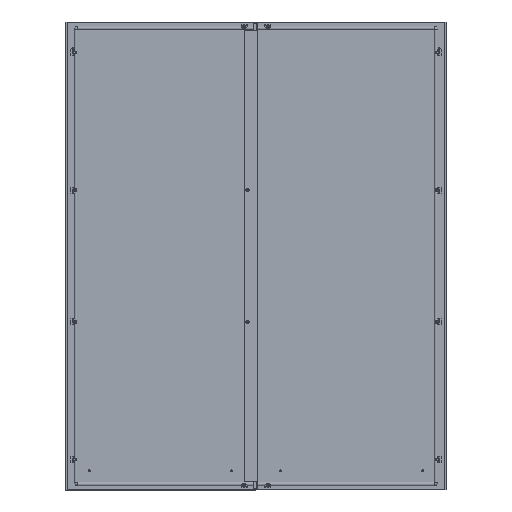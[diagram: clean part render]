
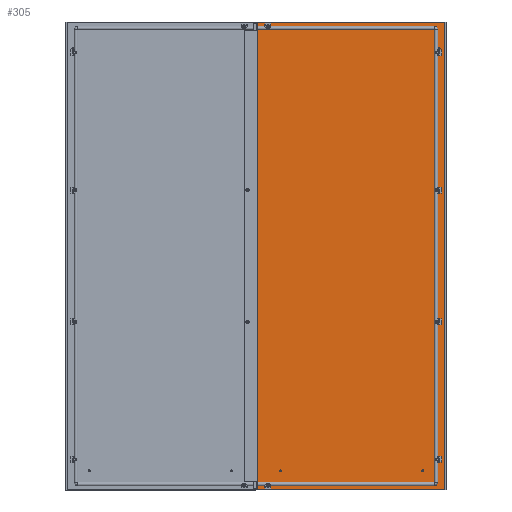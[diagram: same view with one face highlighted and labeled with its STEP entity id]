
A CAD part, top view. The second image highlights one B-rep face of the part: STEP entity #305.
In plain terms, the highlighted planar face has unit normal (0, 0, 1) as drawn and (0, 0, -1) by its records, which use the part's own axes.
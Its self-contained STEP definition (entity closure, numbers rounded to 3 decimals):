
#305 = ADVANCED_FACE('',(#306,#317,#328,#339,#350,#361,#372),#470,.T.);
#306 = FACE_BOUND('',#307,.T.);
#307 = EDGE_LOOP('',(#308));
#308 = ORIENTED_EDGE('',*,*,#309,.T.);
#309 = EDGE_CURVE('',#310,#310,#312,.T.);
#310 = VERTEX_POINT('',#311);
#311 = CARTESIAN_POINT('',(369.25,-850.,-1.5));
#312 = CIRCLE('',#313,4.75);
#313 = AXIS2_PLACEMENT_3D('',#314,#315,#316);
#314 = CARTESIAN_POINT('',(364.5,-850.,-1.5));
#315 = DIRECTION('',(0.,0.,1.));
#316 = DIRECTION('',(1.,0.,-0.));
#317 = FACE_BOUND('',#318,.T.);
#318 = EDGE_LOOP('',(#319));
#319 = ORIENTED_EDGE('',*,*,#320,.T.);
#320 = EDGE_CURVE('',#321,#321,#323,.T.);
#321 = VERTEX_POINT('',#322);
#322 = CARTESIAN_POINT('',(369.25,-275.,-1.5));
#323 = CIRCLE('',#324,4.75);
#324 = AXIS2_PLACEMENT_3D('',#325,#326,#327);
#325 = CARTESIAN_POINT('',(364.5,-275.,-1.5));
#326 = DIRECTION('',(0.,0.,1.));
#327 = DIRECTION('',(1.,0.,-0.));
#328 = FACE_BOUND('',#329,.T.);
#329 = EDGE_LOOP('',(#330));
#330 = ORIENTED_EDGE('',*,*,#331,.F.);
#331 = EDGE_CURVE('',#332,#332,#334,.T.);
#332 = VERTEX_POINT('',#333);
#333 = CARTESIAN_POINT('',(369.25,850.,-1.5));
#334 = CIRCLE('',#335,4.75);
#335 = AXIS2_PLACEMENT_3D('',#336,#337,#338);
#336 = CARTESIAN_POINT('',(364.5,850.,-1.5));
#337 = DIRECTION('',(0.,0.,-1.));
#338 = DIRECTION('',(1.,0.,0.));
#339 = FACE_BOUND('',#340,.T.);
#340 = EDGE_LOOP('',(#341));
#341 = ORIENTED_EDGE('',*,*,#342,.F.);
#342 = EDGE_CURVE('',#343,#343,#345,.T.);
#343 = VERTEX_POINT('',#344);
#344 = CARTESIAN_POINT('',(369.25,275.,-1.5));
#345 = CIRCLE('',#346,4.75);
#346 = AXIS2_PLACEMENT_3D('',#347,#348,#349);
#347 = CARTESIAN_POINT('',(364.5,275.,-1.5));
#348 = DIRECTION('',(0.,0.,-1.));
#349 = DIRECTION('',(1.,0.,0.));
#350 = FACE_BOUND('',#351,.T.);
#351 = EDGE_LOOP('',(#352));
#352 = ORIENTED_EDGE('',*,*,#353,.T.);
#353 = EDGE_CURVE('',#354,#354,#356,.T.);
#354 = VERTEX_POINT('',#355);
#355 = CARTESIAN_POINT('',(-354.75,964.5,-1.5));
#356 = CIRCLE('',#357,4.75);
#357 = AXIS2_PLACEMENT_3D('',#358,#359,#360);
#358 = CARTESIAN_POINT('',(-350.,964.5,-1.5));
#359 = DIRECTION('',(0.,0.,1.));
#360 = DIRECTION('',(-1.,0.,0.));
#361 = FACE_BOUND('',#362,.T.);
#362 = EDGE_LOOP('',(#363));
#363 = ORIENTED_EDGE('',*,*,#364,.T.);
#364 = EDGE_CURVE('',#365,#365,#367,.T.);
#365 = VERTEX_POINT('',#366);
#366 = CARTESIAN_POINT('',(-345.25,-964.5,-1.5));
#367 = CIRCLE('',#368,4.75);
#368 = AXIS2_PLACEMENT_3D('',#369,#370,#371);
#369 = CARTESIAN_POINT('',(-350.,-964.5,-1.5));
#370 = DIRECTION('',(0.,0.,1.));
#371 = DIRECTION('',(1.,0.,-0.));
#372 = FACE_BOUND('',#373,.T.);
#373 = EDGE_LOOP('',(#374,#384,#392,#400,#408,#416,#424,#432,#440,#448,
    #456,#464));
#374 = ORIENTED_EDGE('',*,*,#375,.F.);
#375 = EDGE_CURVE('',#376,#378,#380,.T.);
#376 = VERTEX_POINT('',#377);
#377 = CARTESIAN_POINT('',(-395.3,-976.,-1.5));
#378 = VERTEX_POINT('',#379);
#379 = CARTESIAN_POINT('',(395.3,-976.,-1.5));
#380 = LINE('',#381,#382);
#381 = CARTESIAN_POINT('',(0.,-976.,-1.5));
#382 = VECTOR('',#383,1.);
#383 = DIRECTION('',(1.,0.,0.));
#384 = ORIENTED_EDGE('',*,*,#385,.F.);
#385 = EDGE_CURVE('',#386,#376,#388,.T.);
#386 = VERTEX_POINT('',#387);
#387 = CARTESIAN_POINT('',(-395.3,-977.5,-1.5));
#388 = LINE('',#389,#390);
#389 = CARTESIAN_POINT('',(-395.3,0.,-1.5));
#390 = VECTOR('',#391,1.);
#391 = DIRECTION('',(0.,1.,0.));
#392 = ORIENTED_EDGE('',*,*,#393,.F.);
#393 = EDGE_CURVE('',#394,#386,#396,.T.);
#394 = VERTEX_POINT('',#395);
#395 = CARTESIAN_POINT('',(-395.5,-977.5,-1.5));
#396 = LINE('',#397,#398);
#397 = CARTESIAN_POINT('',(0.,-977.5,-1.5));
#398 = VECTOR('',#399,1.);
#399 = DIRECTION('',(1.,0.,0.));
#400 = ORIENTED_EDGE('',*,*,#401,.T.);
#401 = EDGE_CURVE('',#394,#402,#404,.T.);
#402 = VERTEX_POINT('',#403);
#403 = CARTESIAN_POINT('',(-395.5,977.5,-1.5));
#404 = LINE('',#405,#406);
#405 = CARTESIAN_POINT('',(-395.5,0.,-1.5));
#406 = VECTOR('',#407,1.);
#407 = DIRECTION('',(0.,1.,0.));
#408 = ORIENTED_EDGE('',*,*,#409,.F.);
#409 = EDGE_CURVE('',#410,#402,#412,.T.);
#410 = VERTEX_POINT('',#411);
#411 = CARTESIAN_POINT('',(-395.3,977.5,-1.5));
#412 = LINE('',#413,#414);
#413 = CARTESIAN_POINT('',(0.,977.5,-1.5));
#414 = VECTOR('',#415,1.);
#415 = DIRECTION('',(-1.,0.,0.));
#416 = ORIENTED_EDGE('',*,*,#417,.T.);
#417 = EDGE_CURVE('',#410,#418,#420,.T.);
#418 = VERTEX_POINT('',#419);
#419 = CARTESIAN_POINT('',(-395.3,976.,-1.5));
#420 = LINE('',#421,#422);
#421 = CARTESIAN_POINT('',(-395.3,0.,-1.5));
#422 = VECTOR('',#423,1.);
#423 = DIRECTION('',(0.,-1.,0.));
#424 = ORIENTED_EDGE('',*,*,#425,.F.);
#425 = EDGE_CURVE('',#426,#418,#428,.T.);
#426 = VERTEX_POINT('',#427);
#427 = CARTESIAN_POINT('',(395.3,976.,-1.5));
#428 = LINE('',#429,#430);
#429 = CARTESIAN_POINT('',(0.,976.,-1.5));
#430 = VECTOR('',#431,1.);
#431 = DIRECTION('',(-1.,0.,0.));
#432 = ORIENTED_EDGE('',*,*,#433,.F.);
#433 = EDGE_CURVE('',#434,#426,#436,.T.);
#434 = VERTEX_POINT('',#435);
#435 = CARTESIAN_POINT('',(395.3,977.5,-1.5));
#436 = LINE('',#437,#438);
#437 = CARTESIAN_POINT('',(395.3,0.,
    -1.5));
#438 = VECTOR('',#439,1.);
#439 = DIRECTION('',(0.,-1.,0.));
#440 = ORIENTED_EDGE('',*,*,#441,.F.);
#441 = EDGE_CURVE('',#442,#434,#444,.T.);
#442 = VERTEX_POINT('',#443);
#443 = CARTESIAN_POINT('',(395.5,977.5,-1.5));
#444 = LINE('',#445,#446);
#445 = CARTESIAN_POINT('',(0.,977.5,-1.5));
#446 = VECTOR('',#447,1.);
#447 = DIRECTION('',(-1.,0.,0.));
#448 = ORIENTED_EDGE('',*,*,#449,.T.);
#449 = EDGE_CURVE('',#442,#450,#452,.T.);
#450 = VERTEX_POINT('',#451);
#451 = CARTESIAN_POINT('',(395.5,-977.5,-1.5));
#452 = LINE('',#453,#454);
#453 = CARTESIAN_POINT('',(395.5,0.,
    -1.5));
#454 = VECTOR('',#455,1.);
#455 = DIRECTION('',(0.,-1.,0.));
#456 = ORIENTED_EDGE('',*,*,#457,.F.);
#457 = EDGE_CURVE('',#458,#450,#460,.T.);
#458 = VERTEX_POINT('',#459);
#459 = CARTESIAN_POINT('',(395.3,-977.5,-1.5));
#460 = LINE('',#461,#462);
#461 = CARTESIAN_POINT('',(0.,-977.5,-1.5));
#462 = VECTOR('',#463,1.);
#463 = DIRECTION('',(1.,0.,0.));
#464 = ORIENTED_EDGE('',*,*,#465,.T.);
#465 = EDGE_CURVE('',#458,#378,#466,.T.);
#466 = LINE('',#467,#468);
#467 = CARTESIAN_POINT('',(395.3,0.,
    -1.5));
#468 = VECTOR('',#469,1.);
#469 = DIRECTION('',(0.,1.,0.));
#470 = PLANE('',#471);
#471 = AXIS2_PLACEMENT_3D('',#472,#473,#474);
#472 = CARTESIAN_POINT('',(0.,0.,
    -1.5));
#473 = DIRECTION('',(-0.,0.,-1.));
#474 = DIRECTION('',(-1.,0.,0.));
